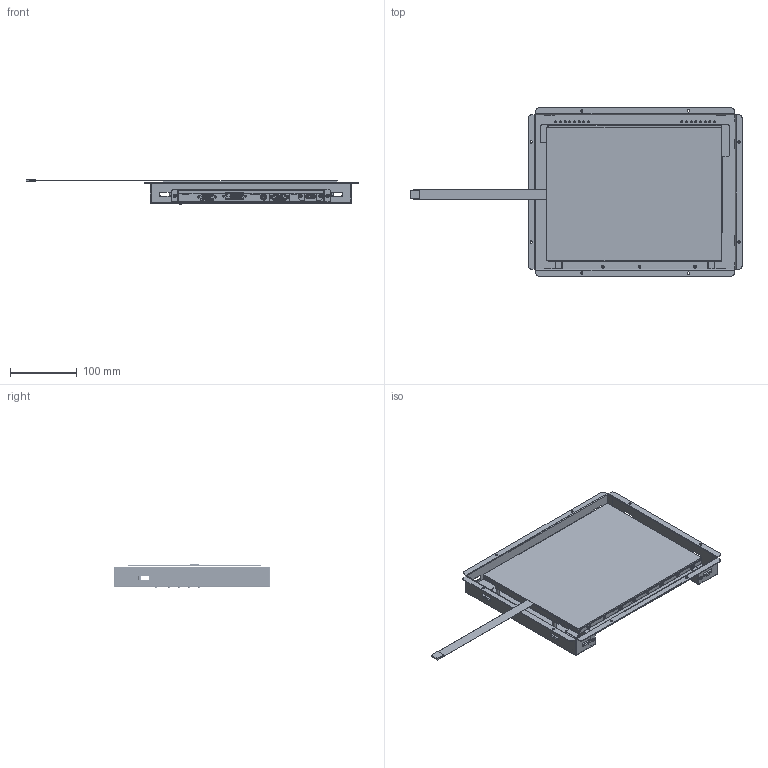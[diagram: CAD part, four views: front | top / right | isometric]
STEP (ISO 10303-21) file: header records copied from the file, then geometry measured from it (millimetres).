
FILE_DESCRIPTION (( 'STEP AP203' ), '1' );
FILE_NAME ('IDS-3112R-60XGA1E.STEP', '2014-04-25T06:26:55', ( 'ITD.MIS' ), ( '' ), 'SwSTEP 2.0', 'SolidWorks 2013', '' );
FILE_SCHEMA (( 'CONFIG_CONTROL_DESIGN' ));
Products named in the file (1): IDS-3112R-60XGA1E
Bounding box: 497.6 x 252 x 36.32 mm (x, y, z)
Surface area: 837055.5 mm2 (no closed solid volume)
Topology: 0 solids, 70 shells, 7001 faces, 18263 edges, 11681 vertices
Faces by surface type: plane 4444, cylinder 1554, bspline 705, cone 174, torus 124
Entity records: 233186 total; most frequent: CARTESIAN_POINT 65975, ORIENTED_EDGE 36460, DIRECTION 31800, EDGE_CURVE 18248, VECTOR 12816, LINE 12816, VERTEX_POINT 11681, AXIS2_PLACEMENT_3D 9492
